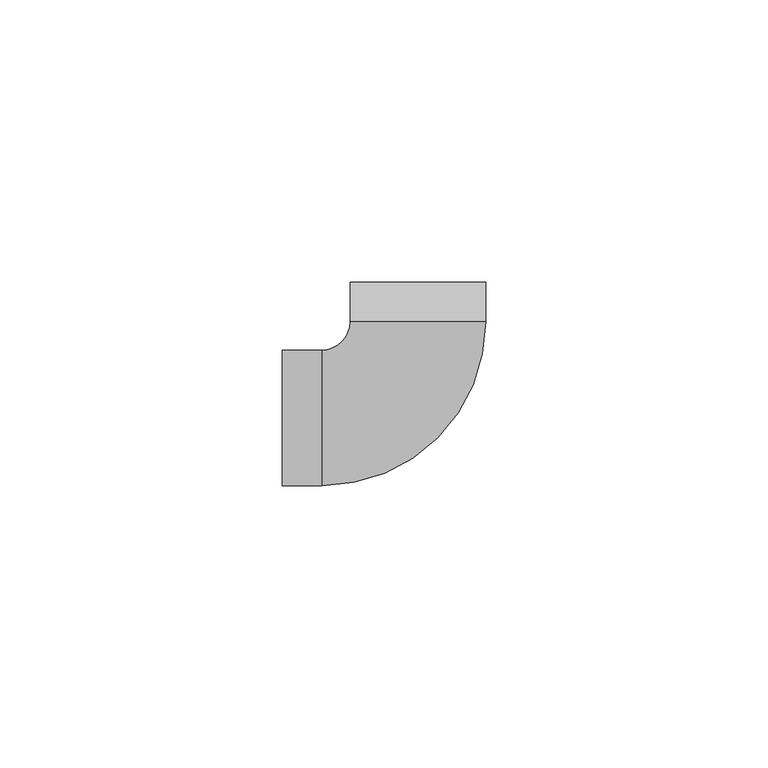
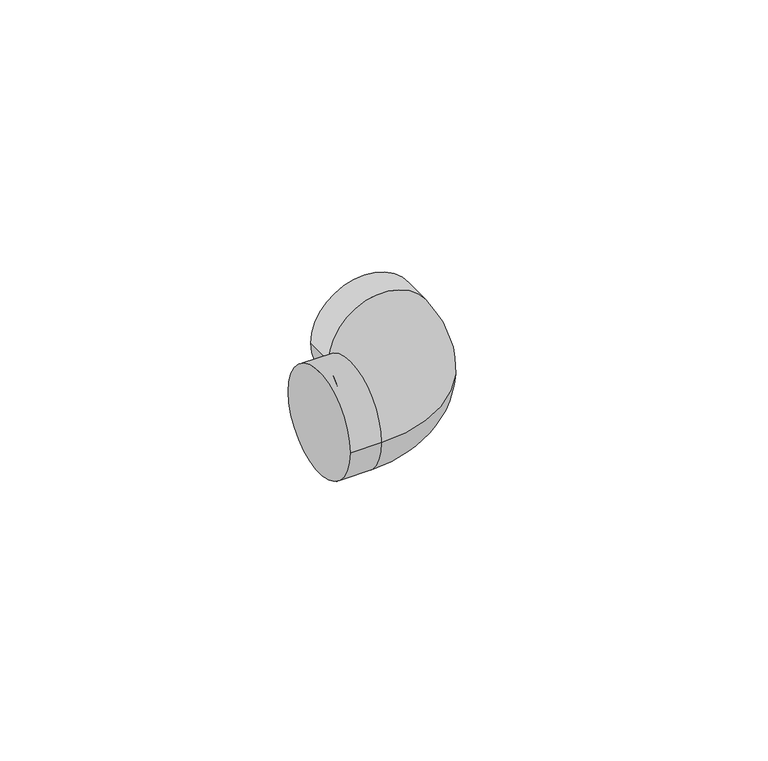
"""IFC4 building model written with IfcOpenShell, lengths in millimetres: pipe fitting geometry, PipeFitting_GirpiHTA_CPVC_Elbows_ForExpansionJoints : PipeFitting_GirpiHTA_CPVC_Elbows_ForExpansionJoints."""

from ifc_helpers import new_model, si_unit, point, frame, origin, place, context, project, spatial, circle_curve, ellipse_curve, trimmed, source, transform, mapped, element, save
from ifc_brep_helpers import plane_surface, cylinder_surface, revolved_surface, advanced_brep


def pipe_fitting_26546776(model_context):
    return source(origin(), model_context, "Body", "AdvancedBrep", [
        advanced_brep(
        [(-24.0, -12.0, 0.0), (-24.0, 12.0, 0.0), (-17.0, -12.0, 0.0), (-17.0, 12.0, 0.0), (-12.0, 17.0, 0.0), (12.0, 17.0, 0.0), (12.0, 24.0, 0.0), (-12.0, 24.0, 0.0)],
        [
            (0, 1, circle_curve(frame((-24.0, 0.0, 0.0), z_axis=(-1.0, 0.0, 0.0), x_axis=(0.0, 1.0, 0.0)), 12.0)),
            (1, 0, circle_curve(frame((-24.0, 0.0, 0.0), z_axis=(-1.0, 0.0, 0.0), x_axis=(0.0, 1.0, 0.0)), 12.0)),
            (0, 2),
            (2, 3, circle_curve(frame((-17.0, 0.0, 0.0), z_axis=(-1.0, 0.0, 0.0), x_axis=(0.0, 1.0, 0.0)), 12.0)),
            (3, 1),
            (3, 2, circle_curve(frame((-17.0, 0.0, 0.0), z_axis=(-1.0, 0.0, 0.0), x_axis=(0.0, 1.0, 0.0)), 12.0)),
            (4, 3, circle_curve(frame((-17.0, 17.0, 0.0), z_axis=(0.0, 0.0, -1.0), x_axis=(0.0, -1.0, 0.0)), 5.0)),
            (2, 5, circle_curve(frame((-17.0, 17.0, 0.0), z_axis=(0.0, 0.0, 1.0), x_axis=(0.0, -1.0, 0.0)), 29.0)),
            (5, 4, circle_curve(frame((0.0, 17.0, 0.0), z_axis=(0.0, -1.0, 0.0), x_axis=(-1.0, 0.0, 0.0)), 12.0)),
            (4, 5, circle_curve(frame((0.0, 17.0, 0.0), z_axis=(0.0, -1.0, 0.0), x_axis=(-1.0, 0.0, 0.0)), 12.0)),
            (6, 7, circle_curve(frame((0.0, 24.0, 0.0), z_axis=(0.0, 1.0, 0.0), x_axis=(-1.0, 0.0, 0.0)), 12.0)),
            (7, 6, circle_curve(frame((0.0, 24.0, 0.0), z_axis=(0.0, 1.0, 0.0), x_axis=(-1.0, 0.0, 0.0)), 12.0)),
            (5, 6),
            (7, 4),
        ],
        [
            plane_surface(frame((-24.0, 0.0, 0.0), z_axis=(-1.0, 0.0, 0.0), x_axis=(0.0, 0.0, 1.0))),
            cylinder_surface(frame((-24.0, 0.0, 0.0), z_axis=(-1.0, 0.0, 0.0), x_axis=(0.0, 1.0, 0.0)), 12.0),
            revolved_surface(trimmed(ellipse_curve(frame((-17.0, 0.0, 0.0), z_axis=(-1.0, 0.0, 0.0), x_axis=(0.0, 1.0, 0.0)), 12.0, 12.0), [point((-17.0, -12.0, 0.0))], [point((-17.0, 12.0, 0.0))], True, "CARTESIAN"), (-17.0, 17.0, 0.0), (0.0, 0.0, 1.0)),
            revolved_surface(trimmed(ellipse_curve(frame((-17.0, 0.0, 0.0), z_axis=(-1.0, 0.0, 0.0), x_axis=(0.0, 1.0, 0.0)), 12.0, 12.0), [point((-17.0, 12.0, 0.0))], [point((-17.0, -12.0, 0.0))], True, "CARTESIAN"), (-17.0, 17.0, 0.0), (0.0, 0.0, 1.0)),
            plane_surface(frame((0.0, 24.0, 0.0), z_axis=(0.0, 1.0, 0.0), x_axis=(0.0, 0.0, 1.0))),
            cylinder_surface(frame((0.0, 17.0, 0.0), z_axis=(0.0, -1.0, 0.0), x_axis=(-1.0, 0.0, 0.0)), 12.0),
        ],
        [
            (0, [[1, 2]]),
            (1, [[-1, 3, 4, 5]]),
            (1, [[-2, -5, 6, -3]]),
            (2, [[7, -4, 8, 9]]),
            (3, [[-8, -6, -7, 10]]),
            (4, [[11, 12]]),
            (5, [[-9, 13, -12, 14]]),
            (5, [[-10, -14, -11, -13]]),
        ],
    ),
    ])


if __name__ == "__main__":
    model = new_model("IFC4")
    model_context = context("Model", 3, world=origin())
    ifc_project = project(units=[si_unit("LENGTHUNIT", "METRE", prefix="MILLI")], contexts=[model_context])
    site = spatial("IfcSite", under=ifc_project)
    building = spatial("IfcBuilding", under=site)
    placement = place(None, origin())
    pipe_fitting_shape = pipe_fitting_26546776(model_context)
    element("IfcPipeFitting", 1, ObjectType="PipeFitting_GirpiHTA_CPVC_Elbows_ForExpansionJoints : PipeFitting_GirpiHTA_CPVC_Elbows_ForExpansionJoints", at=placement, inside=building, context=model_context, shape_type="MappedRepresentation", body=[
        mapped(pipe_fitting_shape, transform((0.0, 0.0, 0.0), x_axis=(1.0, 0.0, 0.0), y_axis=(0.0, 1.0, 0.0), z_axis=(0.0, 0.0, 1.0))),
    ])
    save(model, "model.ifc")
